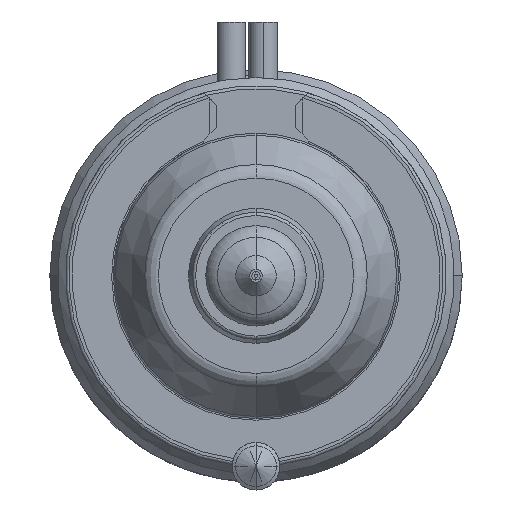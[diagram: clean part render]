
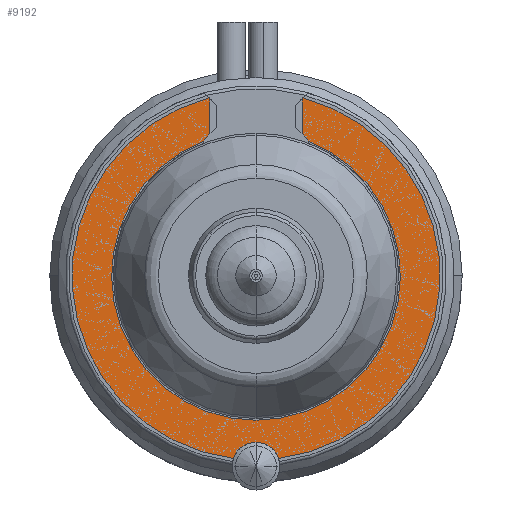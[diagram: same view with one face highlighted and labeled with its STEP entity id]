
A CAD part, front view. The second image highlights one B-rep face of the part: STEP entity #9192.
In plain terms, the highlighted planar face has unit normal (0, -1, 0).
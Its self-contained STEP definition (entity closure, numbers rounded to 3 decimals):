
#595=DIRECTION('',(0.707,0.,-0.707));
#596=VECTOR('',#595,0.092);
#597=CARTESIAN_POINT('',(-2.965,-22.,11.215));
#598=LINE('',#597,#596);
#1554=CARTESIAN_POINT('',(0.,-22.,6.2));
#1555=DIRECTION('',(0.,1.,0.));
#1556=DIRECTION('',(0.725,0.,0.689));
#1557=AXIS2_PLACEMENT_3D('',#1554,#1555,#1556);
#1569=CARTESIAN_POINT('',(0.,-22.,-12.));
#1570=DIRECTION('',(0.,1.,0.));
#1571=DIRECTION('',(-0.946,0.,0.325));
#1572=AXIS2_PLACEMENT_3D('',#1569,#1570,#1571);
#1588=CARTESIAN_POINT('',(0.,-22.,0.));
#1589=DIRECTION('',(0.,1.,0.));
#1590=DIRECTION('',(-0.122,0.,-0.992));
#1591=AXIS2_PLACEMENT_3D('',#1588,#1589,#1590);
#1600=CARTESIAN_POINT('',(0.,-22.,0.));
#1601=DIRECTION('',(0.,1.,0.));
#1602=DIRECTION('',(0.256,0.,0.967));
#1603=AXIS2_PLACEMENT_3D('',#1600,#1601,#1602);
#1616=DIRECTION('',(-0.707,0.,-0.707));
#1617=VECTOR('',#1616,0.092);
#1618=CARTESIAN_POINT('',(2.965,-22.,11.215));
#1619=LINE('',#1618,#1617);
#1624=DIRECTION('',(0.,0.,-1.));
#1625=VECTOR('',#1624,2.195);
#1626=CARTESIAN_POINT('',(2.9,-22.,11.15));
#1627=LINE('',#1626,#1625);
#1655=DIRECTION('',(0.,0.,1.));
#1656=VECTOR('',#1655,2.195);
#1657=CARTESIAN_POINT('',(-2.9,-22.,8.955));
#1658=LINE('',#1657,#1656);
#1690=CARTESIAN_POINT('',(0.,-22.,6.2));
#1691=DIRECTION('',(0.,1.,0.));
#1692=DIRECTION('',(-0.82,0.,0.572));
#1693=AXIS2_PLACEMENT_3D('',#1690,#1691,#1692);
#1705=CARTESIAN_POINT('',(0.,-22.,0.));
#1706=DIRECTION('',(0.,-1.,0.));
#1707=DIRECTION('',(-0.361,0.,0.933));
#1708=AXIS2_PLACEMENT_3D('',#1705,#1706,#1707);
#7304=CARTESIAN_POINT('',(2.965,-22.,11.215));
#7305=CARTESIAN_POINT('',(2.9,-22.,11.15));
#7306=VERTEX_POINT('',#7304);
#7307=VERTEX_POINT('',#7305);
#7312=CARTESIAN_POINT('',(-2.965,-22.,11.215));
#7313=CARTESIAN_POINT('',(-2.9,-22.,11.15));
#7314=VERTEX_POINT('',#7312);
#7315=VERTEX_POINT('',#7313);
#7350=CARTESIAN_POINT('',(2.9,-22.,8.955));
#7351=CARTESIAN_POINT('',(3.281,-22.,8.488));
#7352=VERTEX_POINT('',#7350);
#7353=VERTEX_POINT('',#7351);
#7354=CARTESIAN_POINT('',(-3.281,-22.,8.488));
#7355=CARTESIAN_POINT('',(-2.9,-22.,8.955));
#7356=VERTEX_POINT('',#7354);
#7357=VERTEX_POINT('',#7355);
#7499=CARTESIAN_POINT('',(-1.419,-22.,-11.513));
#7500=CARTESIAN_POINT('',(1.419,-22.,-11.513));
#7501=VERTEX_POINT('',#7499);
#7502=VERTEX_POINT('',#7500);
#9168=CARTESIAN_POINT('',(0.,-22.,0.));
#9169=DIRECTION('',(0.,-1.,0.));
#9170=DIRECTION('',(-1.,0.,0.));
#9171=AXIS2_PLACEMENT_3D('',#9168,#9169,#9170);
#9172=PLANE('',#9171);
#9173=ORIENTED_EDGE('',*,*,#8655,.F.);
#9175=ORIENTED_EDGE('',*,*,#9174,.T.);
#9176=ORIENTED_EDGE('',*,*,#8775,.T.);
#9178=ORIENTED_EDGE('',*,*,#9177,.F.);
#9180=ORIENTED_EDGE('',*,*,#9179,.F.);
#9182=ORIENTED_EDGE('',*,*,#9181,.T.);
#9183=ORIENTED_EDGE('',*,*,#9147,.F.);
#9185=ORIENTED_EDGE('',*,*,#9184,.F.);
#9187=ORIENTED_EDGE('',*,*,#9186,.F.);
#9189=ORIENTED_EDGE('',*,*,#9188,.T.);
#9190=EDGE_LOOP('',(#9173,#9175,#9176,#9178,#9180,#9182,#9183,#9185,#9187,
#9189));
#9191=FACE_OUTER_BOUND('',#9190,.F.);
#9192=ADVANCED_FACE('',(#9191),#9172,.T.);
#1558=CIRCLE('',#1557,4.);
#1573=CIRCLE('',#1572,1.5);
#1592=CIRCLE('',#1591,11.6);
#1604=CIRCLE('',#1603,11.6);
#1694=CIRCLE('',#1693,4.);
#1709=CIRCLE('',#1708,9.1);
#8655=EDGE_CURVE('',#7501,#7502,#1573,.T.);
#8775=EDGE_CURVE('',#7314,#7315,#598,.T.);
#9147=EDGE_CURVE('',#7352,#7353,#1558,.T.);
#9174=EDGE_CURVE('',#7501,#7314,#1592,.T.);
#9177=EDGE_CURVE('',#7357,#7315,#1658,.T.);
#9179=EDGE_CURVE('',#7356,#7357,#1694,.T.);
#9181=EDGE_CURVE('',#7356,#7353,#1709,.T.);
#9184=EDGE_CURVE('',#7307,#7352,#1627,.T.);
#9186=EDGE_CURVE('',#7306,#7307,#1619,.T.);
#9188=EDGE_CURVE('',#7306,#7502,#1604,.T.);
